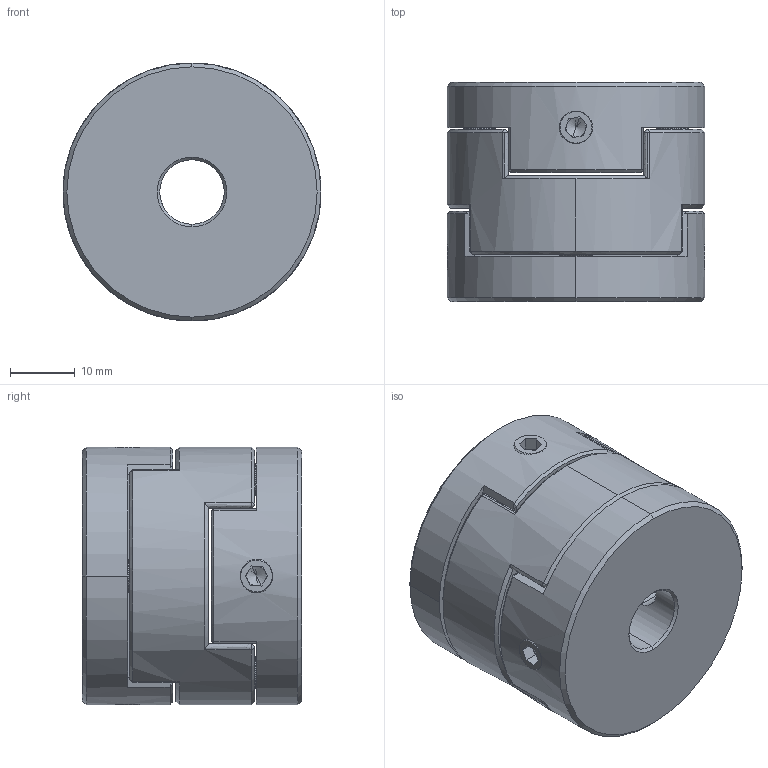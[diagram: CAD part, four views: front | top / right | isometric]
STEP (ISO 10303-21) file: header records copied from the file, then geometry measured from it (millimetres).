
FILE_DESCRIPTION (( 'STEP AP203' ), '1' );
FILE_NAME ('LZ-D-D40L35-10-20.STEP', '2021-10-30T04:46:54', ( '' ), ( '' ), 'SwSTEP 2.0', 'SolidWorks 2018', '' );
FILE_SCHEMA (( 'CONFIG_CONTROL_DESIGN' ));
Length unit declared in the file: millimetre
Products named in the file (1): LZ-D-D40L35-10-20
Bounding box: 40 x 34 x 40 mm (x, y, z)
Volume: 33934.6 mm3; surface area: 12324.3 mm2
Topology: 1 solids, 1 shells, 218 faces, 548 edges, 331 vertices
Faces by surface type: plane 89, bspline 55, cone 48, cylinder 26
Entity records: 7780 total; most frequent: CARTESIAN_POINT 3020, ORIENTED_EDGE 1080, DIRECTION 800, EDGE_CURVE 540, VERTEX_POINT 331, AXIS2_PLACEMENT_3D 290, EDGE_LOOP 243, LINE 220
